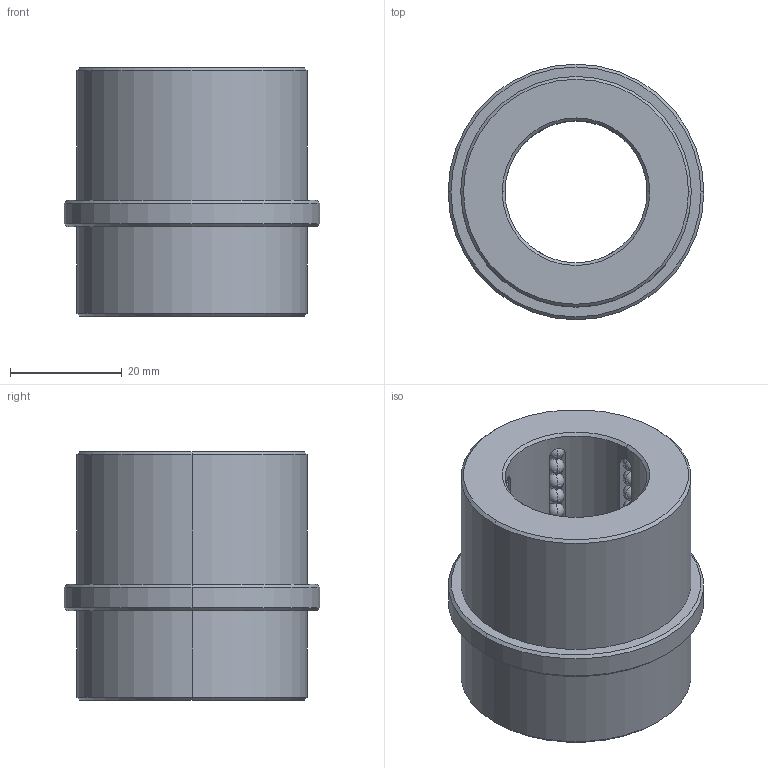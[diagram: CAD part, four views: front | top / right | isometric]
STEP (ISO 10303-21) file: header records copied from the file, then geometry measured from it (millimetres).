
FILE_DESCRIPTION((''),'2;1');
FILE_NAME('BGEB1000','2018-01-06T',('MANU'),(''),'PRO/ENGINEER BY PARAMETRIC TECHNOLOGY CORPORATION, 2012130','PRO/ENGINEER BY PARAMETRIC TECHNOLOGY CORPORATION, 2012130','');
FILE_SCHEMA(('CONFIG_CONTROL_DESIGN'));
Length unit declared in the file: millimetre
Products named in the file (1): BGEB1000
Bounding box: 45.77 x 45.77 x 44.45 mm (x, y, z)
Volume: 37315 mm3; surface area: 14907.3 mm2
Topology: 73 solids, 73 shells, 198 faces, 558 edges, 224 vertices
Faces by surface type: sphere 144, plane 22, cylinder 20, cone 12
Entity records: 4490 total; most frequent: CARTESIAN_POINT 902, DIRECTION 834, ORIENTED_EDGE 540, AXIS2_PLACEMENT_3D 382, EDGE_CURVE 270, VERTEX_POINT 224, EDGE_LOOP 206, FACE_OUTER_BOUND 198
